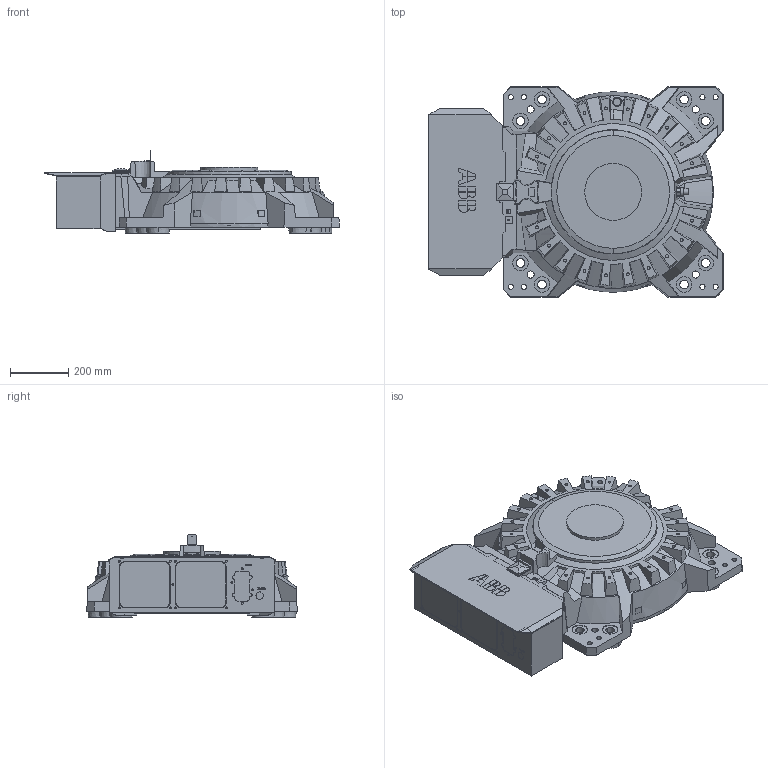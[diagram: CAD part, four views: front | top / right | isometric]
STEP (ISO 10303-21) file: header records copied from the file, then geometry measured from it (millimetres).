
FILE_DESCRIPTION (( 'STEP AP203' ), '1' );
FILE_NAME ('IRB6700-MH6_220-300_IRC5_rev00_BASE_CAD.STEP', '2014-08-27T11:28:43', ( 'ABB' ), ( 'ABB' ), 'SwSTEP 2.0', 'SolidWorks 2012', '' );
FILE_SCHEMA (( 'CONFIG_CONTROL_DESIGN' ));
Length unit declared in the file: millimetre
Products named in the file (1): IRB6700-MH6_220-300_IRC5_rev00_BASE_CAD
Bounding box: 1009.42 x 720.84 x 281 mm (x, y, z)
Volume: 94744869.7 mm3; surface area: 2099113.7 mm2
Topology: 1 solids, 1 shells, 960 faces, 2512 edges, 1661 vertices
Faces by surface type: plane 535, cylinder 214, cone 146, bspline 65
Entity records: 32940 total; most frequent: CARTESIAN_POINT 9553, ORIENTED_EDGE 5020, DIRECTION 4553, EDGE_CURVE 2510, VERTEX_POINT 1661, AXIS2_PLACEMENT_3D 1576, VECTOR 1401, LINE 1401
